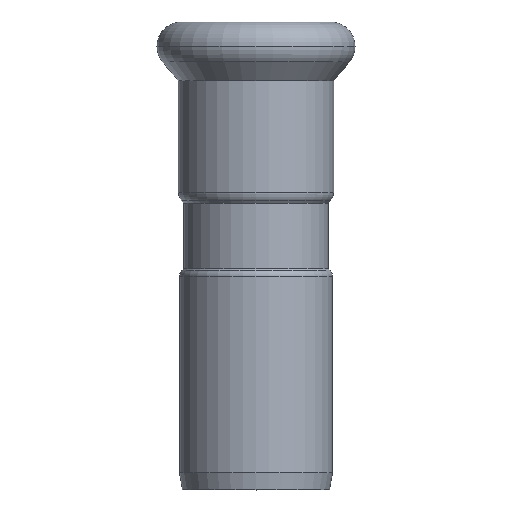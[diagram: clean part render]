
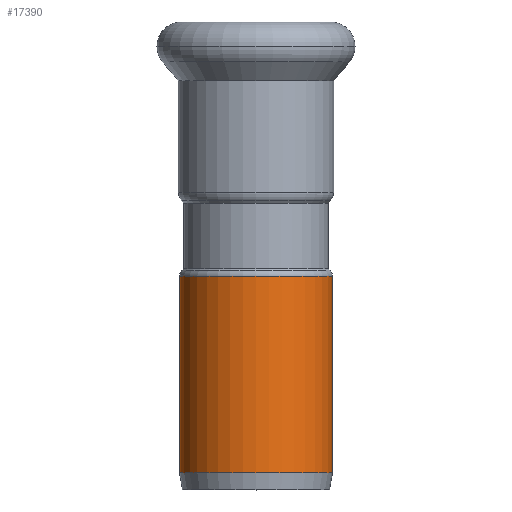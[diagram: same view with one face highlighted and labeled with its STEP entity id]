
A CAD part, top view. The second image highlights one B-rep face of the part: STEP entity #17390.
In plain terms, the highlighted cylindrical face has radius 9 mm (diameter 18 mm), a partial arc.
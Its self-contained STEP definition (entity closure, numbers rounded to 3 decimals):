
#530=CARTESIAN_POINT('',(-105.193,29.195,0.));
#540=VERTEX_POINT('',#530);
#590=CARTESIAN_POINT('',(-96.193,29.195,0.));
#600=DIRECTION('',(0.,-1.,0.));
#610=DIRECTION('',(-1.,0.,0.));
#620=AXIS2_PLACEMENT_3D('',#590,#600,#610);
#630=CIRCLE('',#620,9.);
#640=CARTESIAN_POINT('',(-87.193,29.195,0.));
#650=VERTEX_POINT('',#640);
#870=CARTESIAN_POINT('',(-96.193,30.109,0.));
#880=DIRECTION('',(0.,-1.,0.));
#890=DIRECTION('',(1.,0.,0.));
#900=AXIS2_PLACEMENT_3D('',#870,#880,#890);
#910=CYLINDRICAL_SURFACE('',#900,9.);
#920=CARTESIAN_POINT('',(-87.193,30.109,0.));
#930=DIRECTION('',(0.,-1.,0.));
#940=VECTOR('',#930,1.);
#950=LINE('',#920,#940);
#960=CARTESIAN_POINT('',(-87.193,6.109,0.));
#970=VERTEX_POINT('',#960);
#980=EDGE_CURVE('',#650,#970,#950,.T.);
#1010=CARTESIAN_POINT('',(-105.193,30.109,
0.));
#1020=DIRECTION('',(0.,-1.,0.));
#1030=VECTOR('',#1020,1.);
#1040=LINE('',#1010,#1030);
#1050=CARTESIAN_POINT('',(-105.193,6.109,
0.));
#1060=VERTEX_POINT('',#1050);
#1070=EDGE_CURVE('',#540,#1060,#1040,.T.);
#1090=CARTESIAN_POINT('',(-96.193,6.109,0.));
#1100=DIRECTION('',(0.,-1.,0.));
#1110=DIRECTION('',(-1.,0.,0.));
#1120=AXIS2_PLACEMENT_3D('',#1090,#1100,#1110);
#1130=CIRCLE('',#1120,9.);
#17310=EDGE_CURVE('',#650,#540,#630,.T.);
#17320=ORIENTED_EDGE('',*,*,#17310,.T.);
#17330=ORIENTED_EDGE('',*,*,#980,.F.);
#17340=EDGE_CURVE('',#970,#1060,#1130,.T.);
#17350=ORIENTED_EDGE('',*,*,#17340,.F.);
#17360=ORIENTED_EDGE('',*,*,#1070,.T.);
#17370=EDGE_LOOP('',(#17360,#17350,#17330,#17320));
#17380=FACE_OUTER_BOUND('',#17370,.T.);
#17390=ADVANCED_FACE('',(#17380),#910,.T.);
